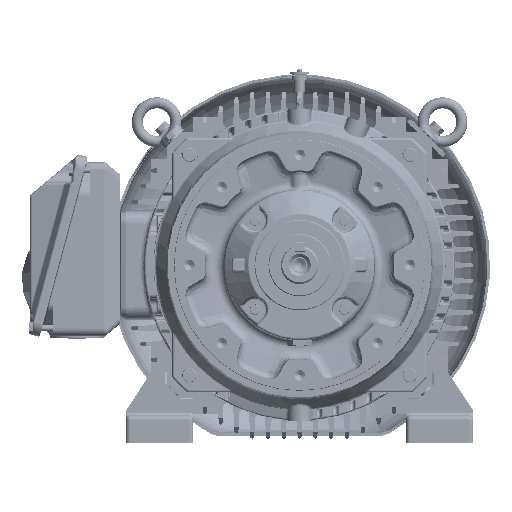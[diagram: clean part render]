
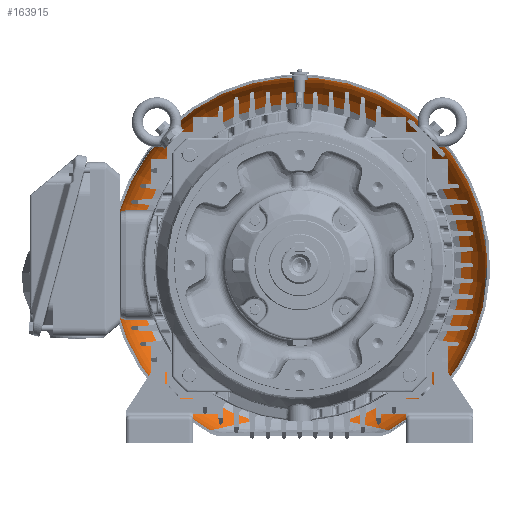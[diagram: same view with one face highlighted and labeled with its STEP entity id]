
A CAD part, front view. The second image highlights one B-rep face of the part: STEP entity #163915.
In plain terms, the highlighted toroidal (fillet/blend) face has major radius 173 mm and minor radius 65 mm.
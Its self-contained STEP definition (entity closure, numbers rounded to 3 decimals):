
#1784=TOROIDAL_SURFACE('',#176216,173.,65.);
#5186=B_SPLINE_CURVE_WITH_KNOTS('',3,(#306644,#306645,#306646,#306647,#306648,
#306649,#306650,#306651,#306652,#306653,#306654,#306655,#306656,#306657,
#306658,#306659,#306660,#306661,#306662,#306663,#306664,#306665,#306666,
#306667,#306668,#306669,#306670,#306671),.UNSPECIFIED.,.F.,.F.,(4,1,1,1,
1,1,1,1,1,1,1,1,1,1,1,1,1,1,1,1,1,1,1,1,1,4),(0.,0.063,0.125,0.188,0.219,
0.234,0.25,0.266,0.281,0.313,0.375,0.438,0.469,0.484,0.5,
0.516,0.531,0.563,0.625,0.688,0.719,0.75,0.781,0.813,0.875,
1.),.UNSPECIFIED.);
#5191=B_SPLINE_CURVE_WITH_KNOTS('',3,(#306894,#306895,#306896,#306897,#306898,
#306899,#306900,#306901,#306902,#306903,#306904,#306905,#306906,#306907,
#306908,#306909,#306910,#306911,#306912,#306913,#306914,#306915,#306916,
#306917,#306918,#306919,#306920,#306921),.UNSPECIFIED.,.F.,.F.,(4,1,1,1,
1,1,1,1,1,1,1,1,1,1,1,1,1,1,1,1,1,1,1,1,1,4),(0.,0.125,0.188,0.219,0.25,
0.281,0.313,0.375,0.438,0.469,0.484,0.5,0.516,0.531,0.563,
0.625,0.688,0.719,0.734,0.75,0.766,0.781,0.813,0.875,0.938,
1.),.UNSPECIFIED.);
#77885=ORIENTED_EDGE('',*,*,#106732,.T.);
#77886=ORIENTED_EDGE('',*,*,#106726,.T.);
#77887=ORIENTED_EDGE('',*,*,#105873,.F.);
#77888=ORIENTED_EDGE('',*,*,#106731,.T.);
#105873=EDGE_CURVE('',#123038,#123039,#129821,.T.);
#106726=EDGE_CURVE('',#123539,#123039,#5186,.T.);
#106731=EDGE_CURVE('',#123038,#123544,#5191,.T.);
#106732=EDGE_CURVE('',#123544,#123539,#130037,.T.);
#123038=VERTEX_POINT('',#300217);
#123039=VERTEX_POINT('',#300218);
#123539=VERTEX_POINT('',#306583);
#123544=VERTEX_POINT('',#306893);
#129821=CIRCLE('',#175631,205.5);
#130037=CIRCLE('',#176217,238.);
#140900=EDGE_LOOP('',(#77885,#77886,#77887,#77888));
#152515=FACE_BOUND('',#140900,.T.);
#163915=ADVANCED_FACE('',(#152515),#1784,.F.);
#175631=AXIS2_PLACEMENT_3D('',#300216,#211424,#211425);
#176216=AXIS2_PLACEMENT_3D('',#306922,#212950,#212951);
#176217=AXIS2_PLACEMENT_3D('',#306923,#212952,#212953);
#211424=DIRECTION('',(0.,-1.,0.));
#211425=DIRECTION('',(-1.,0.,0.));
#212950=DIRECTION('',(0.,-1.,0.));
#212951=DIRECTION('',(-1.,0.,0.));
#212952=DIRECTION('',(0.,-1.,0.));
#212953=DIRECTION('',(-1.,0.,0.));
#300216=CARTESIAN_POINT('',(0.,643.195,0.));
#300217=CARTESIAN_POINT('',(57.094,643.195,-197.409));
#300218=CARTESIAN_POINT('',(-57.094,643.195,-197.409));
#306583=CARTESIAN_POINT('',(-113.128,586.903,-209.394));
#306644=CARTESIAN_POINT('',(-113.128,586.903,-209.394));
#306645=CARTESIAN_POINT('',(-113.128,588.696,-209.394));
#306646=CARTESIAN_POINT('',(-112.911,592.268,-209.343));
#306647=CARTESIAN_POINT('',(-111.939,597.554,-209.12));
#306648=CARTESIAN_POINT('',(-110.602,601.863,-208.817));
#306649=CARTESIAN_POINT('',(-109.392,604.825,-208.541));
#306650=CARTESIAN_POINT('',(-108.63,606.487,-208.368));
#306651=CARTESIAN_POINT('',(-108.004,607.756,-208.225));
#306652=CARTESIAN_POINT('',(-107.408,608.887,-208.089));
#306653=CARTESIAN_POINT('',(-106.55,610.419,-207.893));
#306654=CARTESIAN_POINT('',(-104.952,613.031,-207.528));
#306655=CARTESIAN_POINT('',(-102.367,616.627,-206.94));
#306656=CARTESIAN_POINT('',(-99.412,620.008,-206.273));
#306657=CARTESIAN_POINT('',(-97.151,622.268,-205.765));
#306658=CARTESIAN_POINT('',(-95.819,623.517,-205.467));
#306659=CARTESIAN_POINT('',(-94.765,624.464,-205.23));
#306660=CARTESIAN_POINT('',(-93.801,625.295,-205.015));
#306661=CARTESIAN_POINT('',(-92.454,626.413,-204.714));
#306662=CARTESIAN_POINT('',(-90.053,628.293,-204.179));
#306663=CARTESIAN_POINT('',(-86.444,630.813,-203.382));
#306664=CARTESIAN_POINT('',(-82.623,633.107,-202.552));
#306665=CARTESIAN_POINT('',(-79.466,634.805,-201.876));
#306666=CARTESIAN_POINT('',(-77.002,636.033,-201.353));
#306667=CARTESIAN_POINT('',(-74.64,637.127,-200.857));
#306668=CARTESIAN_POINT('',(-71.402,638.523,-200.185));
#306669=CARTESIAN_POINT('',(-65.654,640.736,-199.018));
#306670=CARTESIAN_POINT('',(-60.556,642.289,-198.041));
#306671=CARTESIAN_POINT('',(-57.094,643.195,-197.409));
#306893=CARTESIAN_POINT('',(113.128,586.903,-209.394));
#306894=CARTESIAN_POINT('',(57.094,643.195,-197.409));
#306895=CARTESIAN_POINT('',(60.562,642.287,-198.042));
#306896=CARTESIAN_POINT('',(65.67,640.73,-199.022));
#306897=CARTESIAN_POINT('',(71.433,638.51,-200.191));
#306898=CARTESIAN_POINT('',(74.676,637.111,-200.864));
#306899=CARTESIAN_POINT('',(77.05,636.01,-201.363));
#306900=CARTESIAN_POINT('',(79.494,634.79,-201.882));
#306901=CARTESIAN_POINT('',(82.637,633.099,-202.555));
#306902=CARTESIAN_POINT('',(86.436,630.817,-203.38));
#306903=CARTESIAN_POINT('',(90.027,628.312,-204.173));
#306904=CARTESIAN_POINT('',(92.416,626.444,-204.705));
#306905=CARTESIAN_POINT('',(93.757,625.332,-205.005));
#306906=CARTESIAN_POINT('',(94.713,624.51,-205.219));
#306907=CARTESIAN_POINT('',(95.775,623.558,-205.457));
#306908=CARTESIAN_POINT('',(97.112,622.306,-205.757));
#306909=CARTESIAN_POINT('',(99.382,620.041,-206.266));
#306910=CARTESIAN_POINT('',(102.346,616.654,-206.935));
#306911=CARTESIAN_POINT('',(104.937,613.055,-207.524));
#306912=CARTESIAN_POINT('',(106.537,610.442,-207.889));
#306913=CARTESIAN_POINT('',(107.396,608.909,-208.086));
#306914=CARTESIAN_POINT('',(107.992,607.779,-208.222));
#306915=CARTESIAN_POINT('',(108.62,606.506,-208.366));
#306916=CARTESIAN_POINT('',(109.384,604.842,-208.54));
#306917=CARTESIAN_POINT('',(110.597,601.874,-208.816));
#306918=CARTESIAN_POINT('',(111.936,597.559,-209.121));
#306919=CARTESIAN_POINT('',(112.911,592.269,-209.343));
#306920=CARTESIAN_POINT('',(113.128,588.696,-209.394));
#306921=CARTESIAN_POINT('',(113.128,586.903,-209.394));
#306922=CARTESIAN_POINT('',(0.,586.903,0.));
#306923=CARTESIAN_POINT('',(0.,586.903,0.));
